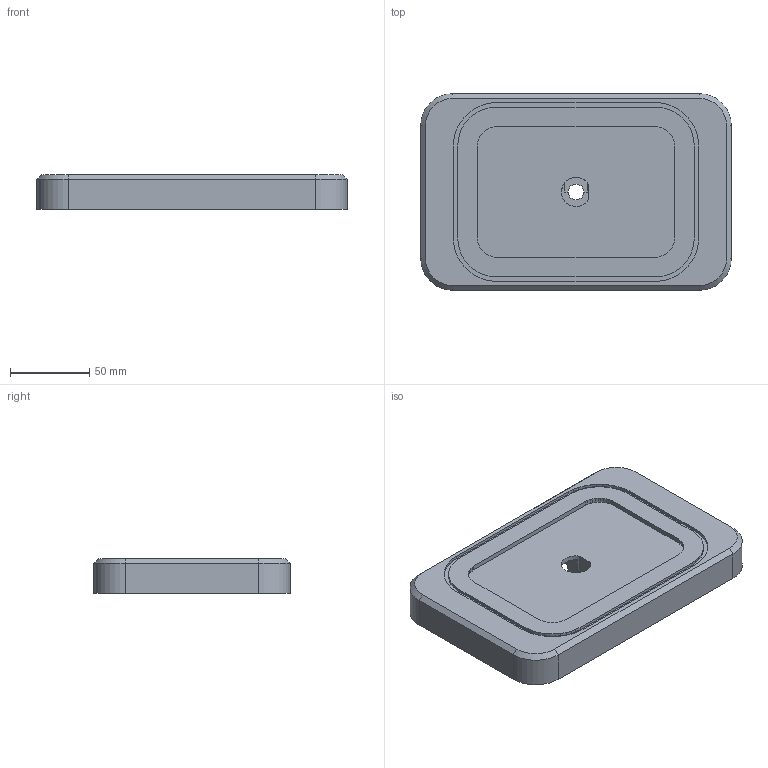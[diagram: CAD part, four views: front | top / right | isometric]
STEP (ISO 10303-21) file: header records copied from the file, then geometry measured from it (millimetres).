
FILE_DESCRIPTION(('Open CASCADE Model'),'2;1');
FILE_NAME('Open CASCADE Shape Model','2026-10-16T13:31:53',('Author'),( 'Open CASCADE'),'Open CASCADE STEP processor 7.9','Open CASCADE 7.9' ,'Unknown');
FILE_SCHEMA(('AUTOMOTIVE_DESIGN { 1 0 10303 214 1 1 1 1 }'));
Length unit declared in the file: millimetre
Products named in the file (1): Open CASCADE STEP translator 7.9 1
Bounding box: 196 x 124 x 22 mm (x, y, z)
Volume: 113239.7 mm3; surface area: 80344.7 mm2
Topology: 1 solids, 1 shells, 216 faces, 600 edges, 397 vertices
Faces by surface type: plane 191, cylinder 21, cone 4
Full cylindrical faces by diameter (mm): 2.6 x4, 7.5 x1, 10 x5, 32 x1
Entity records: 14221 total; most frequent: CARTESIAN_POINT 3018, DIRECTION 1793, LINE 1226, VECTOR 1226, ORIENTED_EDGE 1200, PCURVE 1200, DEFINITIONAL_REPRESENTATION 1200, EDGE_CURVE 600
